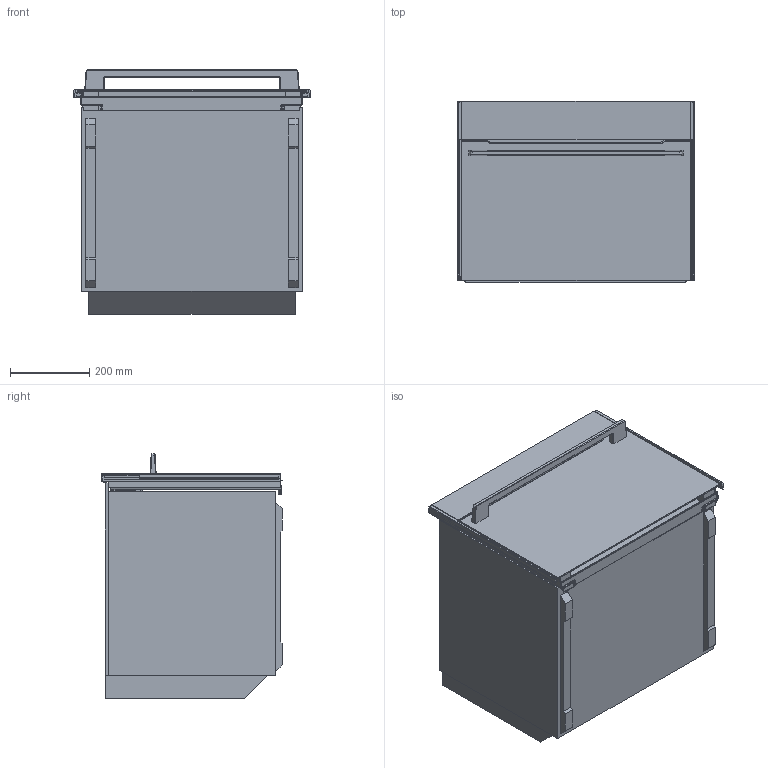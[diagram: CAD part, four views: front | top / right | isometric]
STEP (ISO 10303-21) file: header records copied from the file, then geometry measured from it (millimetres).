
FILE_DESCRIPTION (( 'STEP AP203' ), '1' );
FILE_NAME ('507875_OCM8478G.STEP', '2017-09-14T10:17:20', ( '' ), ( '' ), 'SwSTEP 2.0', 'SolidWorks 2016', '' );
FILE_SCHEMA (( 'CONFIG_CONTROL_DESIGN' ));
Length unit declared in the file: millimetre
Products named in the file (22): 001_MAGNA sklop-piro45.sldasm-Part-19; Mirror001_MAGNA sklop-piro45.sldasm-Part-24; 001_MAGNA sklop-piro45.sldasm-Part-9-1; FRAME MAGNA PYRO 45; BIO 45 ST Dot matrix G.sldasm-Part-121-1; Mirror001_MAGNA sklop-piro45.sldasm-Part-19; 001_MAGNA sklop-piro45.sldasm-Part-2; OHISJE PECICE 45 ST; DOOR MAGNA PYRO 45; 001_MAGNA sklop-piro45.sldasm-Part-3; PECICA; BIO 45 ST Dot matrix G.sldasm-Part-91-1; OVEN 45 MAGNA MW; CONTROL PANNEL MAGNA PYRO 45; 002.sldasm-Part-388; 507875_OCM8478G; 001_MAGNA ASSEMBLY PYRO 45; OBOD; 001_MAGNA sklop-piro45.sldasm-Part-12; 001_MAGNA sklop-piro45.sldasm-Part-24; 001_MAGNA sklop-piro45.sldasm-Part-26; 001_MAGNA sklop-piro45.sldasm-Part-23
Assembly tree (21 placements, depth 5):
  507875_OCM8478G
    OVEN 45 MAGNA MW
      PECICA
        OHISJE PECICE 45 ST
          BIO 45 ST Dot matrix G.sldasm-Part-91-1
          BIO 45 ST Dot matrix G.sldasm-Part-121-1
      OBOD
        002.sldasm-Part-388
      001_MAGNA ASSEMBLY PYRO 45
        FRAME MAGNA PYRO 45
          001_MAGNA sklop-piro45.sldasm-Part-24
          001_MAGNA sklop-piro45.sldasm-Part-23
          Mirror001_MAGNA sklop-piro45.sldasm-Part-24
        CONTROL PANNEL MAGNA PYRO 45
          001_MAGNA sklop-piro45.sldasm-Part-2
          001_MAGNA sklop-piro45.sldasm-Part-3
      DOOR MAGNA PYRO 45
        001_MAGNA sklop-piro45.sldasm-Part-12
        001_MAGNA sklop-piro45.sldasm-Part-26
        001_MAGNA sklop-piro45.sldasm-Part-19
        001_MAGNA sklop-piro45.sldasm-Part-9-1
        Mirror001_MAGNA sklop-piro45.sldasm-Part-19
Bounding box: 597 x 455.07 x 616 mm (x, y, z)
Volume: 125311031.3 mm3; surface area: 3053903.7 mm2
Topology: 13 solids, 15 shells, 496 faces, 1305 edges, 837 vertices
Faces by surface type: plane 258, cylinder 154, bspline 64, torus 14, sphere 6
Entity records: 19911 total; most frequent: CARTESIAN_POINT 5672, ORIENTED_EDGE 2602, DIRECTION 2353, EDGE_CURVE 1301, VERTEX_POINT 837, VECTOR 821, LINE 821, AXIS2_PLACEMENT_3D 766
